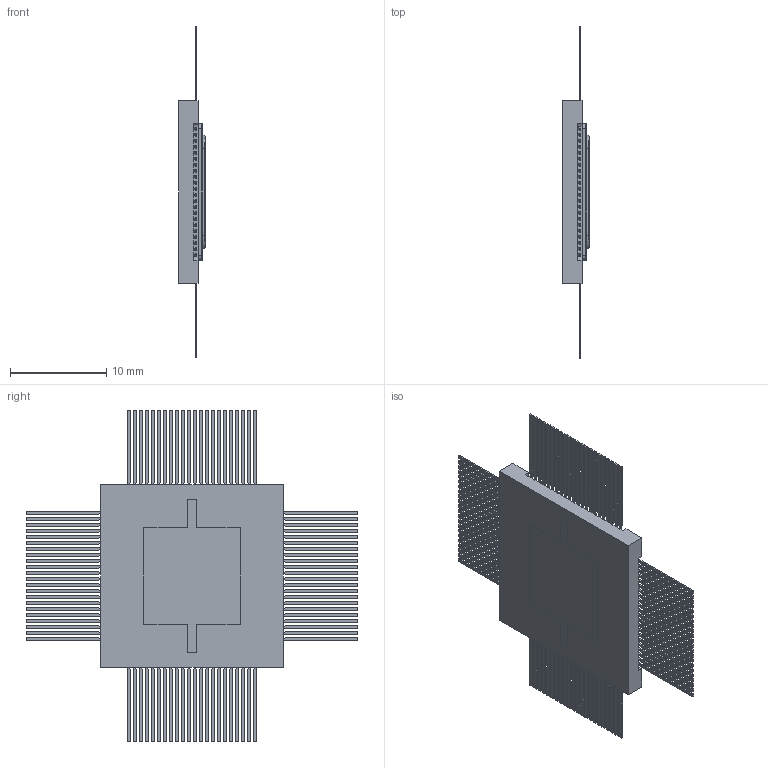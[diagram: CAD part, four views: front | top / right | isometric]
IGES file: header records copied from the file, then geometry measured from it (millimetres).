
Start section: SolidWorks IGES file using analytic representation for surfaces
Global section: file name: C:\Users\niktr\Desktop\### Ïåðåïèñêà ñ ÇÏÏ Éîøêàð Îëà\16_06_2017 3D ìîäåëè êîðïóñîâ â Solidworks\4235-88-1 Êîðïóñ (SolidWorks)\4235-88-1 Êîðïóñ.IGS; native system: SolidWorks 2016; preprocessor: SolidWorks 2016; author: niktr; date: 170618.221622; units: millimetre
Bounding box: 2.76 x 34.5 x 34.5 mm (x, y, z)
Surface area: 2225.6 mm2 (no closed solid volume)
Topology: 0 solids, 0 shells, 1896 faces, 31034 edges, 41276 vertices
Faces by surface type: bspline 1858, revolution 38
